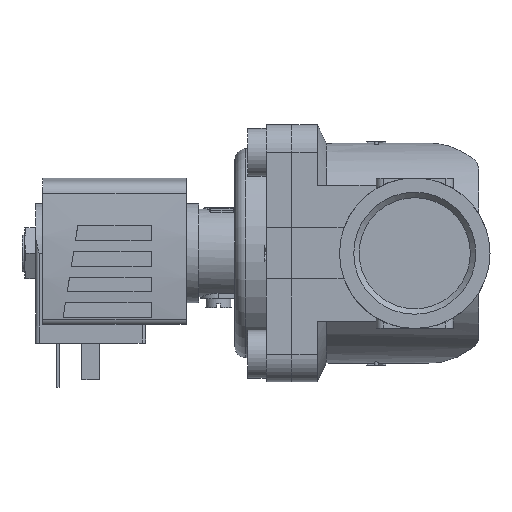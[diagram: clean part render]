
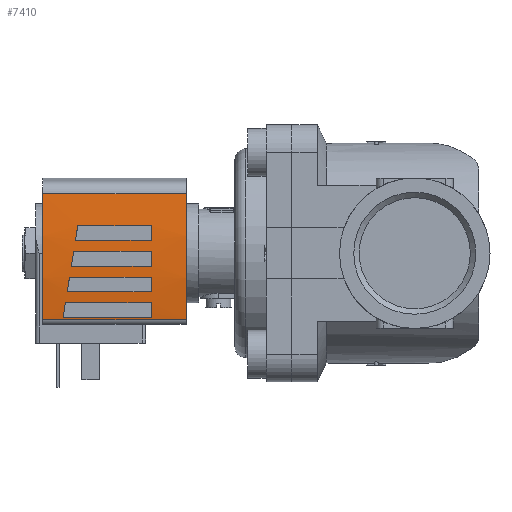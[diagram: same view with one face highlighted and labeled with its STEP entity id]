
A CAD part, left-side view. The second image highlights one B-rep face of the part: STEP entity #7410.
In plain terms, the highlighted cylindrical face has radius 130 mm (diameter 260 mm), a partial arc.
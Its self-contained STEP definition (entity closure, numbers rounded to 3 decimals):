
#153=ELLIPSE('',#7996,131.653,130.);
#154=ELLIPSE('',#7998,131.653,130.);
#155=ELLIPSE('',#8001,131.653,130.);
#156=ELLIPSE('',#8003,131.653,130.);
#850=LINE('',#11589,#1414);
#852=LINE('',#11609,#1416);
#853=LINE('',#11613,#1417);
#854=LINE('',#11614,#1418);
#855=LINE('',#11619,#1419);
#856=LINE('',#11624,#1420);
#857=LINE('',#11628,#1421);
#858=LINE('',#11632,#1422);
#859=LINE('',#11636,#1423);
#860=LINE('',#11640,#1424);
#1414=VECTOR('',#9509,1000.);
#1416=VECTOR('',#9531,1000.);
#1417=VECTOR('',#9534,1000.);
#1418=VECTOR('',#9535,1000.);
#1419=VECTOR('',#9538,1000.);
#1420=VECTOR('',#9543,1000.);
#1421=VECTOR('',#9546,1000.);
#1422=VECTOR('',#9549,1000.);
#1423=VECTOR('',#9552,1000.);
#1424=VECTOR('',#9555,1000.);
#2932=ORIENTED_EDGE('',*,*,#4036,.F.);
#2933=ORIENTED_EDGE('',*,*,#4037,.F.);
#2934=ORIENTED_EDGE('',*,*,#4038,.F.);
#2935=ORIENTED_EDGE('',*,*,#4039,.F.);
#2936=ORIENTED_EDGE('',*,*,#4040,.F.);
#2937=ORIENTED_EDGE('',*,*,#4041,.F.);
#2938=ORIENTED_EDGE('',*,*,#4042,.F.);
#2939=ORIENTED_EDGE('',*,*,#4043,.F.);
#2940=ORIENTED_EDGE('',*,*,#4044,.T.);
#2941=ORIENTED_EDGE('',*,*,#4045,.F.);
#2942=ORIENTED_EDGE('',*,*,#4030,.F.);
#2943=ORIENTED_EDGE('',*,*,#4027,.T.);
#2944=ORIENTED_EDGE('',*,*,#4046,.F.);
#2945=ORIENTED_EDGE('',*,*,#4047,.F.);
#2946=ORIENTED_EDGE('',*,*,#4048,.F.);
#2947=ORIENTED_EDGE('',*,*,#4049,.F.);
#2948=ORIENTED_EDGE('',*,*,#4050,.F.);
#2949=ORIENTED_EDGE('',*,*,#4051,.F.);
#2950=ORIENTED_EDGE('',*,*,#4052,.F.);
#2951=ORIENTED_EDGE('',*,*,#4053,.F.);
#4027=EDGE_CURVE('',#4694,#4693,#850,.T.);
#4030=EDGE_CURVE('',#4694,#4696,#4985,.T.);
#4036=EDGE_CURVE('',#4700,#4701,#153,.T.);
#4037=EDGE_CURVE('',#4702,#4700,#852,.F.);
#4038=EDGE_CURVE('',#4703,#4702,#4990,.T.);
#4039=EDGE_CURVE('',#4701,#4703,#853,.T.);
#4040=EDGE_CURVE('',#4704,#4705,#854,.T.);
#4041=EDGE_CURVE('',#4706,#4704,#154,.T.);
#4042=EDGE_CURVE('',#4707,#4706,#855,.F.);
#4043=EDGE_CURVE('',#4705,#4707,#4991,.T.);
#4044=EDGE_CURVE('',#4693,#4708,#4992,.T.);
#4045=EDGE_CURVE('',#4696,#4708,#856,.T.);
#4046=EDGE_CURVE('',#4709,#4710,#155,.T.);
#4047=EDGE_CURVE('',#4711,#4709,#857,.F.);
#4048=EDGE_CURVE('',#4712,#4711,#4993,.T.);
#4049=EDGE_CURVE('',#4710,#4712,#858,.T.);
#4050=EDGE_CURVE('',#4713,#4714,#156,.T.);
#4051=EDGE_CURVE('',#4715,#4713,#859,.F.);
#4052=EDGE_CURVE('',#4716,#4715,#4994,.T.);
#4053=EDGE_CURVE('',#4714,#4716,#860,.T.);
#4693=VERTEX_POINT('',#11588);
#4694=VERTEX_POINT('',#11590);
#4696=VERTEX_POINT('',#11596);
#4700=VERTEX_POINT('',#11607);
#4701=VERTEX_POINT('',#11608);
#4702=VERTEX_POINT('',#11610);
#4703=VERTEX_POINT('',#11612);
#4704=VERTEX_POINT('',#11615);
#4705=VERTEX_POINT('',#11616);
#4706=VERTEX_POINT('',#11618);
#4707=VERTEX_POINT('',#11620);
#4708=VERTEX_POINT('',#11623);
#4709=VERTEX_POINT('',#11626);
#4710=VERTEX_POINT('',#11627);
#4711=VERTEX_POINT('',#11629);
#4712=VERTEX_POINT('',#11631);
#4713=VERTEX_POINT('',#11634);
#4714=VERTEX_POINT('',#11635);
#4715=VERTEX_POINT('',#11637);
#4716=VERTEX_POINT('',#11639);
#4985=CIRCLE('',#7990,130.);
#4990=CIRCLE('',#7997,130.);
#4991=CIRCLE('',#7999,130.);
#4992=CIRCLE('',#8000,130.);
#4993=CIRCLE('',#8002,130.);
#4994=CIRCLE('',#8004,130.);
#5314=EDGE_LOOP('',(#2932,#2933,#2934,#2935));
#5315=EDGE_LOOP('',(#2936,#2937,#2938,#2939));
#5316=EDGE_LOOP('',(#2940,#2941,#2942,#2943));
#5317=EDGE_LOOP('',(#2944,#2945,#2946,#2947));
#5318=EDGE_LOOP('',(#2948,#2949,#2950,#2951));
#5712=FACE_BOUND('',#5314,.T.);
#5713=FACE_BOUND('',#5315,.T.);
#5714=FACE_BOUND('',#5316,.T.);
#5715=FACE_BOUND('',#5317,.T.);
#5716=FACE_BOUND('',#5318,.T.);
#5887=CYLINDRICAL_SURFACE('',#7995,130.);
#7410=ADVANCED_FACE('',(#5712,#5713,#5714,#5715,#5716),#5887,.T.);
#7990=AXIS2_PLACEMENT_3D('',#11595,#9516,#9517);
#7995=AXIS2_PLACEMENT_3D('',#11605,#9527,#9528);
#7996=AXIS2_PLACEMENT_3D('',#11606,#9529,#9530);
#7997=AXIS2_PLACEMENT_3D('',#11611,#9532,#9533);
#7998=AXIS2_PLACEMENT_3D('',#11617,#9536,#9537);
#7999=AXIS2_PLACEMENT_3D('',#11621,#9539,#9540);
#8000=AXIS2_PLACEMENT_3D('',#11622,#9541,#9542);
#8001=AXIS2_PLACEMENT_3D('',#11625,#9544,#9545);
#8002=AXIS2_PLACEMENT_3D('',#11630,#9547,#9548);
#8003=AXIS2_PLACEMENT_3D('',#11633,#9550,#9551);
#8004=AXIS2_PLACEMENT_3D('',#11638,#9553,#9554);
#9509=DIRECTION('',(0.,-1.,0.));
#9516=DIRECTION('',(0.,1.,0.));
#9517=DIRECTION('',(1.,0.,0.));
#9527=DIRECTION('',(0.,-1.,0.));
#9528=DIRECTION('',(0.,0.,-1.));
#9529=DIRECTION('',(-0.158,-0.987,0.));
#9530=DIRECTION('',(0.987,-0.158,0.));
#9531=DIRECTION('',(0.,-1.,0.));
#9532=DIRECTION('',(0.,1.,0.));
#9533=DIRECTION('',(0.,0.,1.));
#9534=DIRECTION('',(0.,-1.,0.));
#9535=DIRECTION('',(0.,-1.,0.));
#9536=DIRECTION('',(-0.158,-0.987,0.));
#9537=DIRECTION('',(0.987,-0.158,0.));
#9538=DIRECTION('',(0.,-1.,0.));
#9539=DIRECTION('',(0.,1.,0.));
#9540=DIRECTION('',(0.,0.,1.));
#9541=DIRECTION('',(0.,1.,0.));
#9542=DIRECTION('',(1.,0.,0.));
#9543=DIRECTION('',(0.,-1.,0.));
#9544=DIRECTION('',(-0.158,-0.987,0.));
#9545=DIRECTION('',(0.987,-0.158,0.));
#9546=DIRECTION('',(0.,-1.,0.));
#9547=DIRECTION('',(0.,1.,0.));
#9548=DIRECTION('',(0.,0.,1.));
#9549=DIRECTION('',(0.,-1.,0.));
#9550=DIRECTION('',(-0.158,-0.987,0.));
#9551=DIRECTION('',(0.987,-0.158,0.));
#9552=DIRECTION('',(0.,-1.,0.));
#9553=DIRECTION('',(0.,1.,0.));
#9554=DIRECTION('',(0.,0.,1.));
#9555=DIRECTION('',(0.,-1.,0.));
#11588=CARTESIAN_POINT('',(-18.071,-26.,14.738));
#11589=CARTESIAN_POINT('',(-18.071,13.,14.738));
#11590=CARTESIAN_POINT('',(-18.071,13.,14.738));
#11595=CARTESIAN_POINT('',(0.,13.,-114.));
#11596=CARTESIAN_POINT('',(16.195,13.,14.987));
#11605=CARTESIAN_POINT('',(0.,13.,-114.));
#11606=CARTESIAN_POINT('',(0.,4.7,-114.));
#11607=CARTESIAN_POINT('',(0.5,4.62,15.999));
#11608=CARTESIAN_POINT('',(-3.5,5.26,15.953));
#11609=CARTESIAN_POINT('',(0.5,13.,15.999));
#11610=CARTESIAN_POINT('',(0.5,-16.5,15.999));
#11611=CARTESIAN_POINT('',(0.,-16.5,-114.));
#11612=CARTESIAN_POINT('',(-3.5,-16.5,15.953));
#11613=CARTESIAN_POINT('',(-3.5,13.,15.953));
#11614=CARTESIAN_POINT('',(-17.5,13.,14.817));
#11615=CARTESIAN_POINT('',(-17.5,7.5,14.817));
#11616=CARTESIAN_POINT('',(-17.5,-16.5,14.817));
#11617=CARTESIAN_POINT('',(0.,4.7,-114.));
#11618=CARTESIAN_POINT('',(-13.5,6.86,15.297));
#11619=CARTESIAN_POINT('',(-13.5,13.,15.297));
#11620=CARTESIAN_POINT('',(-13.5,-16.5,15.297));
#11621=CARTESIAN_POINT('',(0.,-16.5,-114.));
#11622=CARTESIAN_POINT('',(0.,-26.,-114.));
#11623=CARTESIAN_POINT('',(16.195,-26.,14.987));
#11624=CARTESIAN_POINT('',(16.195,13.,14.987));
#11625=CARTESIAN_POINT('',(0.,4.7,-114.));
#11626=CARTESIAN_POINT('',(-6.5,5.74,15.837));
#11627=CARTESIAN_POINT('',(-10.5,6.38,15.575));
#11628=CARTESIAN_POINT('',(-6.5,13.,15.837));
#11629=CARTESIAN_POINT('',(-6.5,-16.5,15.837));
#11630=CARTESIAN_POINT('',(0.,-16.5,-114.));
#11631=CARTESIAN_POINT('',(-10.5,-16.5,15.575));
#11632=CARTESIAN_POINT('',(-10.5,13.,15.575));
#11633=CARTESIAN_POINT('',(0.,4.7,-114.));
#11634=CARTESIAN_POINT('',(7.5,3.5,15.783));
#11635=CARTESIAN_POINT('',(3.5,4.14,15.953));
#11636=CARTESIAN_POINT('',(7.5,13.,15.783));
#11637=CARTESIAN_POINT('',(7.5,-16.5,15.783));
#11638=CARTESIAN_POINT('',(0.,-16.5,-114.));
#11639=CARTESIAN_POINT('',(3.5,-16.5,15.953));
#11640=CARTESIAN_POINT('',(3.5,13.,15.953));
